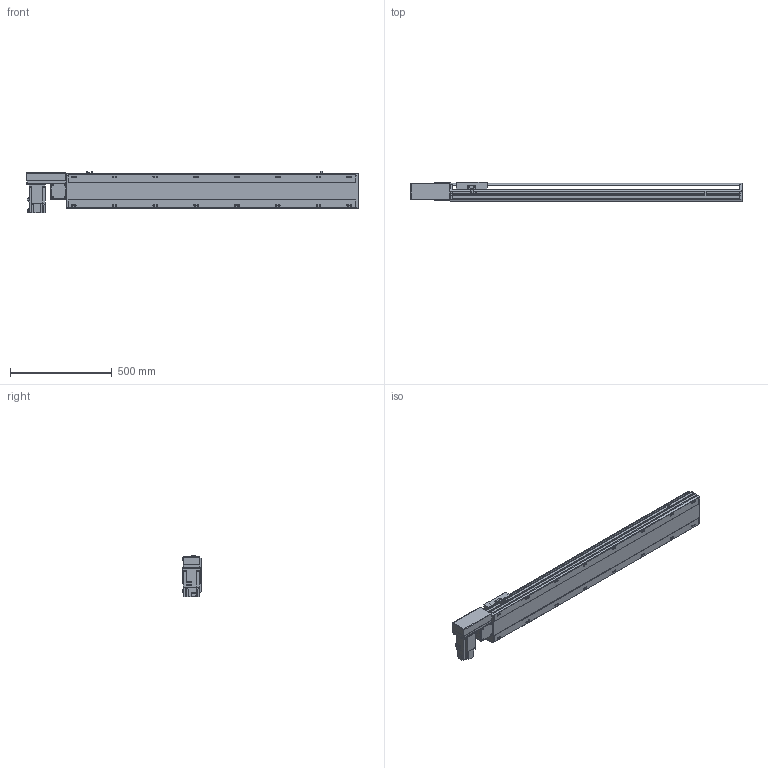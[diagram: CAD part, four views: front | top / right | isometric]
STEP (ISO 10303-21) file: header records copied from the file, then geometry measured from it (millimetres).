
FILE_DESCRIPTION( ( 'STEP AP214' ), '1' );
FILE_NAME( 'x:/temp/worker_4/temp/exporttempdir_2248_264_aJtw6/format_0/PBS170-P40-S1150-R-T75-C1-N(0).stp', '2022-06-07T07:30:15', ( 'License CC BY-ND 4.0' ), ( 'CADENAS' ), ' ', 'PARTsolutions', ' ' );
FILE_SCHEMA( ( 'AUTOMOTIVE_DESIGN { 1 0 10303 214 1 1 1 1 }' ) );
Length unit declared in the file: millimetre
Products named in the file (7): PBS170-P40-S1150-R-T75-C1-N(0); _PBS170-S1150()_body; _PBS170T-R_motors; _T75-p1; _PBS170_sliser; _PBS170_plant; _PBS170_sensor
Assembly tree (8 placements, depth 2):
  PBS170-P40-S1150-R-T75-C1-N(0)
    _PBS170-S1150()_body
    _PBS170T-R_motors
    _T75-p1
    _PBS170_sliser
    _PBS170_plant
    _PBS170_sensor  x3
Bounding box: 1628 x 97 x 205.3 mm (x, y, z)
Volume: 12059799.7 mm3; surface area: 1568894.4 mm2
Topology: 8 solids, 8 shells, 1082 faces, 2875 edges, 1874 vertices
Faces by surface type: plane 687, cylinder 339, cone 46, sphere 8, torus 2
Full cylindrical faces by diameter (mm): 3.242 x4, 4 x2, 4.4 x4, 4.5 x6, 4.917 x4, 6 x9, 6.647 x24, 7 x2, 7.5 x4, 8 x8, 8.5 x16, 10 x4, 10.5 x16, 11 x2, 30 x2, 40 x1, 70 x1
Entity records: 39740 total; most frequent: CARTESIAN_POINT 6221, DIRECTION 5300, ORIENTED_EDGE 5028, EDGE_CURVE 2514, AXIS2_PLACEMENT_3D 1837, VERTEX_POINT 1730, LINE 1626, VECTOR 1626
